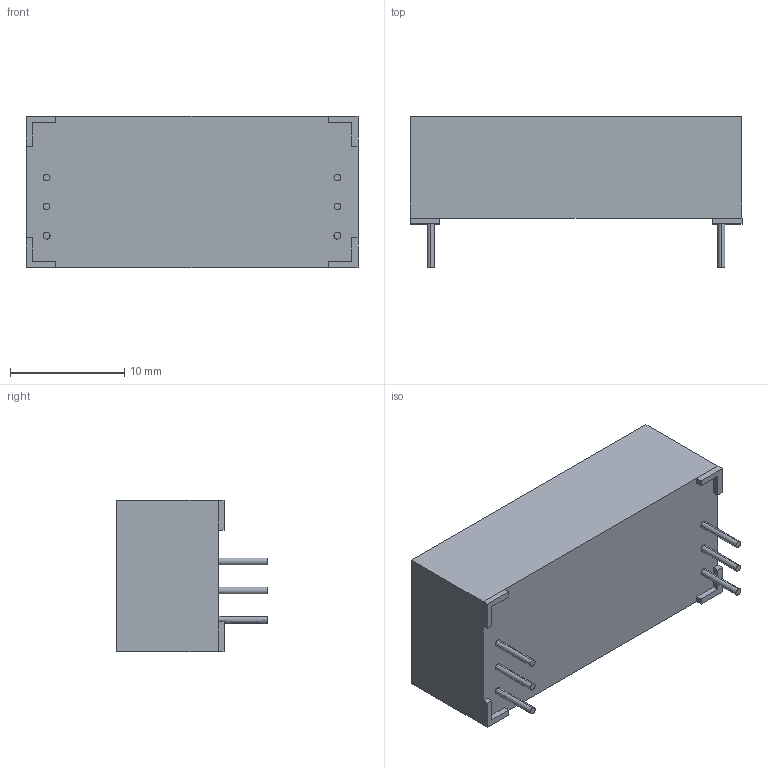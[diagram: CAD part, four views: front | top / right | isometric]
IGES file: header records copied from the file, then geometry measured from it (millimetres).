
Start section: SolidWorks IGES file using analytic representation for surfaces
Global section: file name: T:\Relays in Solidworks\Batch 4\80-2-A.IGS; native system: SolidWorks 2009; preprocessor: SolidWorks 2009; author: alex.leming; date: 100629.161950; units: millimetre
Bounding box: 29 x 13.2 x 13.2 mm (x, y, z)
Surface area: 1585.4 mm2 (no closed solid volume)
Topology: 0 solids, 0 shells, 668 faces, 7004 edges, 7004 vertices
Faces by surface type: bspline 656, revolution 12
